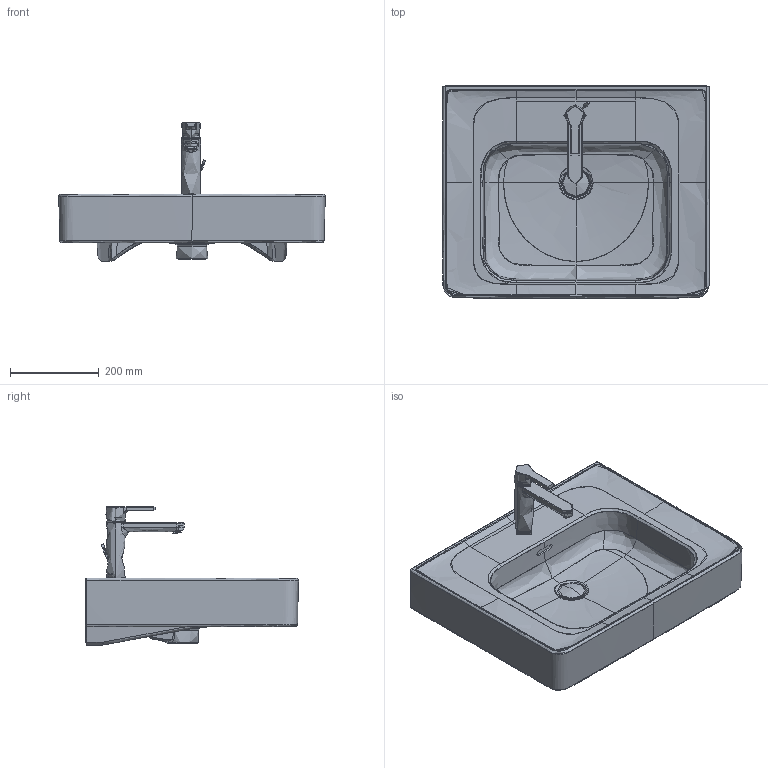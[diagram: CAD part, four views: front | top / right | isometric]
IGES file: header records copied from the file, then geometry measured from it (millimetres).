
Global section: file name: d:\users\matthias.isele\Desktop\Beach\237760\3D\237760.igs; native system: Rhinoceros ( Sep 13 2016 ); preprocessor: Trout Lake IGES 012 Sep 13 2016; date: 211025.084238; units: millimetre
Bounding box: 599.86 x 479.93 x 311.07 mm (x, y, z)
Surface area: 1146871.3 mm2 (no closed solid volume)
Topology: 0 solids, 0 shells, 887 faces, 8459 edges, 8434 vertices
Faces by surface type: bspline 887
